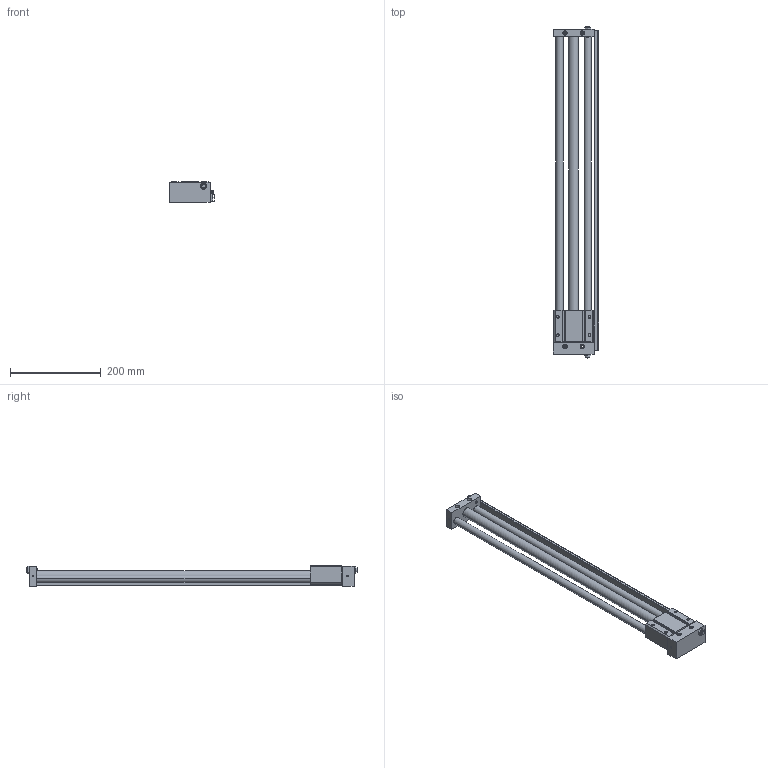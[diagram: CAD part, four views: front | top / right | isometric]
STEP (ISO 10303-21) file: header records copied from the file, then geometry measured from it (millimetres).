
FILE_DESCRIPTION((''),'2;1');
FILE_NAME('C:\Documents and Settings\Administrator\桌面\GYS\GYS20\GYSR20X600.stp','2012-03-06T20:20:49',('Administrator'),(''),'Autodesk Inventor 8','Autodesk Inventor 8','');
FILE_SCHEMA(('AUTOMOTIVE_DESIGN { 1 0 10303 214 1 1 1 1 }'));
Length unit declared in the file: millimetre
Products named in the file (3): GYSR20X600; GYS20X600; GYS20160X600
Assembly tree (2 placements, depth 2):
  GYSR20X600
    GYS20X600
    GYS20160X600
Bounding box: 100.5 x 731 x 46 mm (x, y, z)
Volume: 989232.2 mm3; surface area: 239295.7 mm2
Topology: 2 solids, 2 shells, 243 faces, 626 edges, 408 vertices
Faces by surface type: plane 133, cylinder 76, cone 28, bspline 6
Entity records: 7564 total; most frequent: CARTESIAN_POINT 1356, DIRECTION 1306, ORIENTED_EDGE 1252, EDGE_CURVE 626, AXIS2_PLACEMENT_3D 438, VECTOR 430, LINE 430, VERTEX_POINT 408
